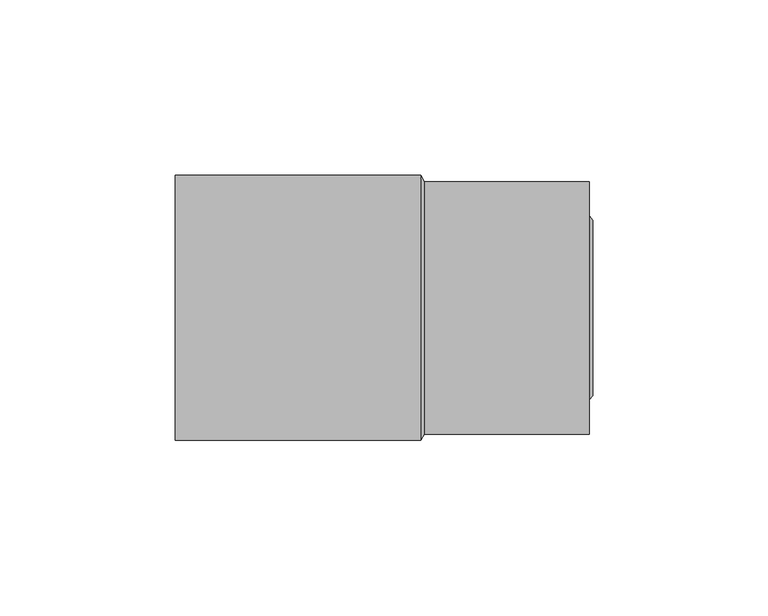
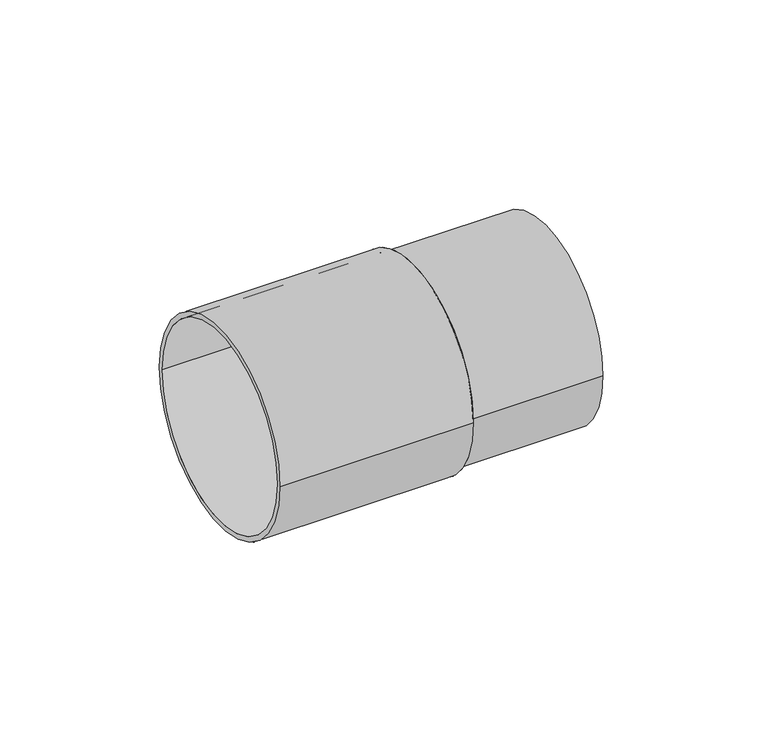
"""IFC4 building model written with IfcOpenShell, lengths in millimetres: pipe fitting geometry, Superdrain HTUG-Connection piece to cast-iron pipes : Superdrain HTUG-Connection piece to cast-iron pipes."""

from ifc_helpers import new_model, si_unit, point, frame, origin, origin_2d, place, context, project, spatial, polyline, circle_curve, trimmed, segment, composite_curve, outline, extrude, source, transform, mapped, element, save
from ifc_brep_helpers import plane_surface, revolved_surface, advanced_brep


def pipe_fitting_f28c39a5(model_context):
    return source(origin(), model_context, "Body", "SolidModel", [
        extrude(outline(composite_curve([segment(trimmed(circle_curve(origin_2d(), 26.25), [point((-26.25, 0.0))], [point((26.25, 0.0))], False, "CARTESIAN"), True, "CONTINUOUS"), segment(trimmed(circle_curve(origin_2d(), 26.25), [point((26.25, 0.0))], [point((-26.25, 0.0))], False, "CARTESIAN"), True, "CONTINUOUS")], self_intersect=False), holes=[composite_curve([segment(trimmed(circle_curve(origin_2d(), 25.0), [point((-25.0, 0.0))], [point((25.0, 0.0))], True, "CARTESIAN"), True, "CONTINUOUS"), segment(trimmed(circle_curve(origin_2d(), 25.0), [point((25.0, 0.0))], [point((-25.0, 0.0))], True, "CARTESIAN"), True, "CONTINUOUS")], self_intersect=False)]), frame((-22.0, 0.0, 0.0), z_axis=(1.0, 0.0, 0.0), x_axis=(0.0, 1.0, 0.0)), (0.0, 0.0, 1.0), 70.0),
        advanced_brep(
        [(49.0, -25.0, 0.0), (49.0, 25.0, 0.0), (48.0, -26.25, 0.0), (48.0, 26.25, 0.0)],
        [
            (0, 1, circle_curve(frame((49.0, 0.0, 0.0), z_axis=(1.0, 0.0, 0.0), x_axis=(0.0, -1.0, 0.0)), 25.0)),
            (1, 0, circle_curve(frame((49.0, 0.0, 0.0), z_axis=(1.0, 0.0, 0.0), x_axis=(0.0, 1.0, 0.0)), 25.0)),
            (2, 3, circle_curve(frame((48.0, 0.0, 0.0), z_axis=(-1.0, 0.0, 0.0), x_axis=(0.0, 1.0, 0.0)), 26.25)),
            (3, 2, circle_curve(frame((48.0, 0.0, 0.0), z_axis=(-1.0, 0.0, 0.0), x_axis=(0.0, -1.0, 0.0)), 26.25)),
            (3, 1),
            (0, 2),
        ],
        [
            plane_surface(frame((49.0, 0.0, 0.0), z_axis=(1.0, 0.0, 0.0), x_axis=(0.0, 0.0, -1.0))),
            plane_surface(frame((48.0, 0.0, 0.0), z_axis=(-1.0, 0.0, 0.0), x_axis=(0.0, 0.0, -1.0))),
            revolved_surface(polyline([(49.0, -25.0, 0.0), (48.0, -26.25, 0.0)]), (69.0, 0.0, 0.0), (-1.0, 0.0, 0.0)),
            revolved_surface(polyline([(49.0, 25.0, 0.0), (48.0, 26.25, 0.0)]), (69.0, 0.0, 0.0), (-1.0, 0.0, 0.0)),
        ],
        [
            (0, [[1, 2]]),
            (1, [[3, 4]]),
            (2, [[-4, 5, -1, 6]]),
            (3, [[-3, -6, -2, -5]]),
        ],
    ),
        extrude(outline(composite_curve([segment(trimmed(circle_curve(origin_2d(), 37.8), [point((-37.8, 0.0))], [point((37.8, 0.0))], False, "CARTESIAN"), True, "CONTINUOUS"), segment(trimmed(circle_curve(origin_2d(), 37.8), [point((37.8, 0.0))], [point((-37.8, 0.0))], False, "CARTESIAN"), True, "CONTINUOUS")], self_intersect=False), holes=[composite_curve([segment(trimmed(circle_curve(origin_2d(), 36.0), [point((-36.0, 0.0))], [point((36.0, 0.0))], True, "CARTESIAN"), True, "CONTINUOUS"), segment(trimmed(circle_curve(origin_2d(), 36.0), [point((36.0, 0.0))], [point((-36.0, 0.0))], True, "CARTESIAN"), True, "CONTINUOUS")], self_intersect=False)]), frame((-70.0, 0.0, 0.0), z_axis=(1.0, 0.0, 0.0), x_axis=(0.0, 1.0, 0.0)), (0.0, 0.0, 1.0), 70.0),
        advanced_brep(
        [(1.0, -36.0, 0.0), (1.0, 36.0, 0.0), (0.0, -37.8, 0.0), (0.0, 37.8, 0.0)],
        [
            (0, 1, circle_curve(frame((1.0, 0.0, 0.0), z_axis=(1.0, 0.0, 0.0), x_axis=(0.0, -1.0, 0.0)), 36.0)),
            (1, 0, circle_curve(frame((1.0, 0.0, 0.0), z_axis=(1.0, 0.0, 0.0), x_axis=(0.0, 1.0, 0.0)), 36.0)),
            (2, 3, circle_curve(frame((0.0, 0.0, 0.0), z_axis=(-1.0, 0.0, 0.0), x_axis=(0.0, 1.0, 0.0)), 37.8)),
            (3, 2, circle_curve(frame((0.0, 0.0, 0.0), z_axis=(-1.0, 0.0, 0.0), x_axis=(0.0, -1.0, 0.0)), 37.8)),
            (3, 1),
            (0, 2),
        ],
        [
            plane_surface(frame((1.0, 0.0, 0.0), z_axis=(1.0, 0.0, 0.0), x_axis=(0.0, 0.0, -1.0))),
            plane_surface(frame((0.0, 0.0, 0.0), z_axis=(-1.0, 0.0, 0.0), x_axis=(0.0, 0.0, -1.0))),
            revolved_surface(polyline([(1.0, -35.99999999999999, 0.0), (0.0, -37.8, 0.0)]), (21.0, 0.0, 0.0), (-1.0, 0.0, 0.0)),
            revolved_surface(polyline([(1.0, 35.99999999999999, 0.0), (0.0, 37.8, 0.0)]), (21.0, 0.0, 0.0), (-1.0, 0.0, 0.0)),
        ],
        [
            (0, [[1, 2]]),
            (1, [[3, 4]]),
            (2, [[-4, 5, -1, 6]]),
            (3, [[-3, -6, -2, -5]]),
        ],
    ),
        extrude(outline(composite_curve([segment(trimmed(circle_curve(origin_2d(), 36.0), [point((-36.0, 0.0))], [point((36.0, 0.0))], False, "CARTESIAN"), True, "CONTINUOUS"), segment(trimmed(circle_curve(origin_2d(), 36.0), [point((36.0, 0.0))], [point((-36.0, 0.0))], False, "CARTESIAN"), True, "CONTINUOUS")], self_intersect=False)), frame((0.0, 0.0, 0.0), z_axis=(1.0, 0.0, 0.0), x_axis=(0.0, 1.0, 0.0)), (0.0, 0.0, 1.0), 48.0),
    ])


if __name__ == "__main__":
    model = new_model("IFC4")
    model_context = context("Model", 3, world=origin())
    ifc_project = project(units=[si_unit("LENGTHUNIT", "METRE", prefix="MILLI")], contexts=[model_context])
    site = spatial("IfcSite", under=ifc_project)
    building = spatial("IfcBuilding", under=site)
    placement = place(None, origin())
    pipe_fitting_shape = pipe_fitting_f28c39a5(model_context)
    element("IfcPipeFitting", 1, ObjectType="Superdrain HTUG-Connection piece to cast-iron pipes : Superdrain HTUG-Connection piece to cast-iron pipes", at=placement, inside=building, context=model_context, shape_type="MappedRepresentation", body=[
        mapped(pipe_fitting_shape, transform((0.0, 0.0, 0.0), x_axis=(1.0, 0.0, 0.0), y_axis=(0.0, 1.0, 0.0), z_axis=(0.0, 0.0, 1.0))),
    ])
    save(model, "model.ifc")
